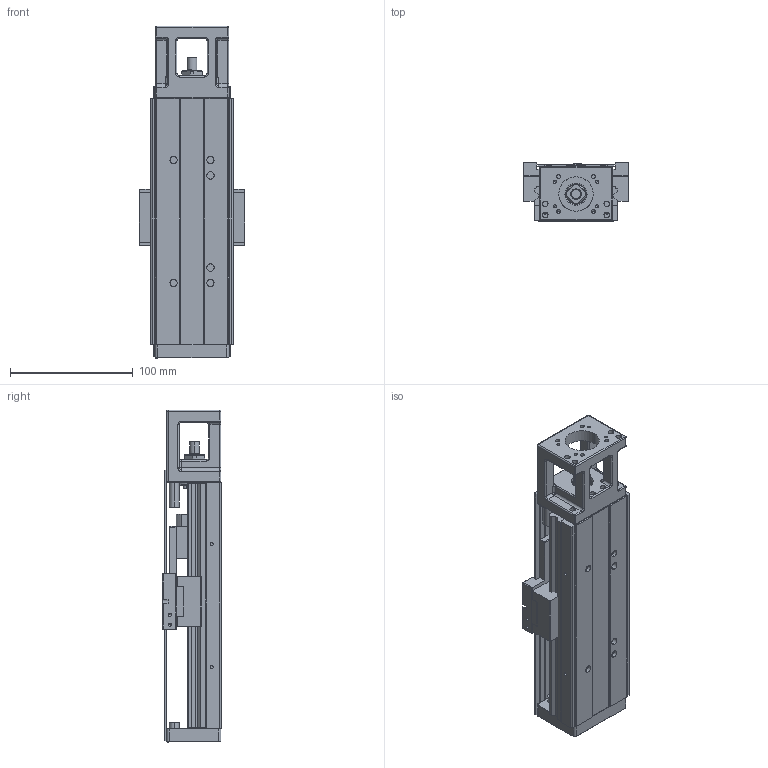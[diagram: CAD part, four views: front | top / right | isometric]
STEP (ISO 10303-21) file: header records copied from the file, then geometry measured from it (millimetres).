
FILE_DESCRIPTION (( 'STEP AP203' ), '1' );
FILE_NAME ('hkk60-200a1f0c.STEP', '2019-10-31T02:38:40', ( '微软用户' ), ( '微软中国' ), 'SwSTEP 2.0', 'SolidWorks 2016', '' );
FILE_SCHEMA (( 'CONFIG_CONTROL_DESIGN' ));
Length unit declared in the file: millimetre
Products named in the file (3): hkk60-300_2; hkk60賑怢_2; hkk60-200a1f0c
Assembly tree (2 placements, depth 2):
  hkk60-200a1f0c
    hkk60-300_2
    hkk60賑怢_2
Bounding box: 86 x 48 x 270 mm (x, y, z)
Volume: 451005 mm3; surface area: 164528.7 mm2
Topology: 41 solids, 47 shells, 1469 faces, 3789 edges, 2341 vertices
Faces by surface type: cylinder 524, plane 495, cone 217, bspline 85, sphere 76, torus 72
Entity records: 62534 total; most frequent: CARTESIAN_POINT 28020, ORIENTED_EDGE 7202, DIRECTION 6871, EDGE_CURVE 3601, AXIS2_PLACEMENT_3D 2535, VERTEX_POINT 2293, VECTOR 1801, LINE 1801
